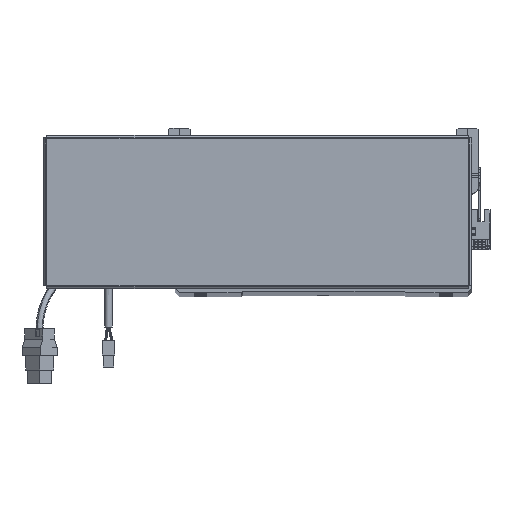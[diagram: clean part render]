
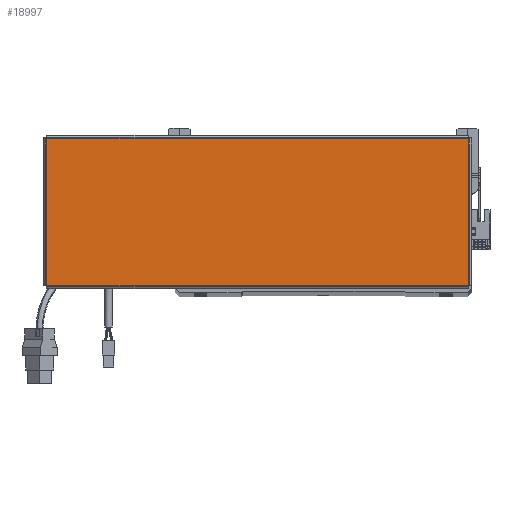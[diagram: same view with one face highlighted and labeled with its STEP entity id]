
A CAD part, top view. The second image highlights one B-rep face of the part: STEP entity #18997.
In plain terms, the highlighted planar face has unit normal (0, 0, 1).
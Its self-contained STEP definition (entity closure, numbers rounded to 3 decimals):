
#1786 = LINE ( 'NONE', #15878, #47700 ) ;
#2248 = DIRECTION ( 'NONE',  ( 1., 0., 0. ) ) ;
#2810 = VECTOR ( 'NONE', #28084, 1000. ) ;
#5599 = DIRECTION ( 'NONE',  ( -1., 0., 0. ) ) ;
#9950 = EDGE_CURVE ( 'NONE', #52512, #29779, #1786, .T. ) ;
#11348 = CARTESIAN_POINT ( 'NONE',  ( 156.543, 54.763, 0. ) ) ;
#15878 = CARTESIAN_POINT ( 'NONE',  ( -156.513, 54.793, 0. ) ) ;
#16110 = VECTOR ( 'NONE', #5599, 1000. ) ;
#18997 = ADVANCED_FACE ( 'NONE', ( #50964 ), #26168, .T. ) ;
#19863 = CARTESIAN_POINT ( 'NONE',  ( -156.543, -54.763, 0. ) ) ;
#19878 = CARTESIAN_POINT ( 'NONE',  ( 0., 0., 0. ) ) ;
#22338 = ORIENTED_EDGE ( 'NONE', *, *, #32563, .T. ) ;
#22869 = EDGE_CURVE ( 'NONE', #45721, #40639, #61350, .T. ) ;
#26168 = PLANE ( 'NONE',  #36769 ) ;
#28084 = DIRECTION ( 'NONE',  ( 0., 1., 0. ) ) ;
#29779 = VERTEX_POINT ( 'NONE', #45348 ) ;
#32563 = EDGE_CURVE ( 'NONE', #40639, #52512, #73784, .T. ) ;
#36769 = AXIS2_PLACEMENT_3D ( 'NONE', #19878, #54610, #2248 ) ;
#38560 = ORIENTED_EDGE ( 'NONE', *, *, #9950, .T. ) ;
#38746 = ORIENTED_EDGE ( 'NONE', *, *, #69448, .T. ) ;
#39697 = CARTESIAN_POINT ( 'NONE',  ( 156.513, -54.763, 0. ) ) ;
#40639 = VERTEX_POINT ( 'NONE', #47961 ) ;
#45348 = CARTESIAN_POINT ( 'NONE',  ( -156.513, -54.763, 0. ) ) ;
#45353 = VECTOR ( 'NONE', #60157, 1000. ) ;
#45721 = VERTEX_POINT ( 'NONE', #39697 ) ;
#47700 = VECTOR ( 'NONE', #55210, 1000. ) ;
#47961 = CARTESIAN_POINT ( 'NONE',  ( 156.513, 54.763, 0. ) ) ;
#50964 = FACE_OUTER_BOUND ( 'NONE', #65298, .T. ) ;
#52512 = VERTEX_POINT ( 'NONE', #59067 ) ;
#54610 = DIRECTION ( 'NONE',  ( 0., 0., 1. ) ) ;
#54737 = ORIENTED_EDGE ( 'NONE', *, *, #22869, .T. ) ;
#55210 = DIRECTION ( 'NONE',  ( 0., -1., 0. ) ) ;
#59067 = CARTESIAN_POINT ( 'NONE',  ( -156.513, 54.763, 0. ) ) ;
#60157 = DIRECTION ( 'NONE',  ( 1., 0., 0. ) ) ;
#61350 = LINE ( 'NONE', #62561, #2810 ) ;
#62561 = CARTESIAN_POINT ( 'NONE',  ( 156.513, -54.793, 0. ) ) ;
#63375 = LINE ( 'NONE', #19863, #45353 ) ;
#65298 = EDGE_LOOP ( 'NONE', ( #38746, #54737, #22338, #38560 ) ) ;
#69448 = EDGE_CURVE ( 'NONE', #29779, #45721, #63375, .T. ) ;
#73784 = LINE ( 'NONE', #11348, #16110 ) ;
